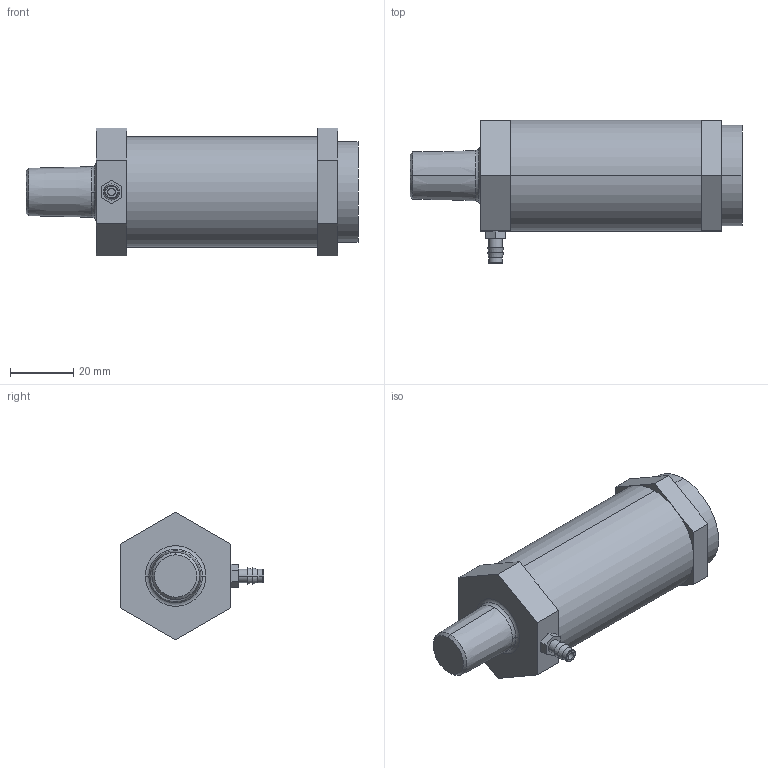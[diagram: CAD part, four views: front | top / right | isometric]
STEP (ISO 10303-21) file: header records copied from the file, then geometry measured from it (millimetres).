
FILE_DESCRIPTION((''),'2;1');
FILE_NAME('XC3_ASM','2017-08-24T',('jennifer.elliott'),('CenterLine (Windsor) Ltd - Automation Components Division'),'PRO/ENGINEER BY PARAMETRIC TECHNOLOGY CORPORATION, 2015030','PRO/ENGINEER BY PARAMETRIC TECHNOLOGY CORPORATION, 2015030','');
FILE_SCHEMA(('AUTOMOTIVE_DESIGN { 1 0 10303 214 1 1 1 1 }'));
Length unit declared in the file: inch
Products named in the file (6): PRT0970; PRT0971; PRT0972; PRT0973; PRT0974; XC3_ASM
Assembly tree (5 placements, depth 2):
  XC3_ASM
    PRT0970
    PRT0971
    PRT0972
    PRT0973
    PRT0974
Bounding box: 104.78 x 45.24 x 40.33 mm (x, y, z)
Volume: 83941.6 mm3; surface area: 18211.1 mm2
Topology: 5 solids, 5 shells, 58 faces, 123 edges, 79 vertices
Faces by surface type: plane 32, cylinder 10, torus 8, cone 8
Entity records: 1951 total; most frequent: DIRECTION 312, CARTESIAN_POINT 287, ORIENTED_EDGE 246, EDGE_CURVE 123, AXIS2_PLACEMENT_3D 120, VERTEX_POINT 79, VECTOR 72, LINE 72
